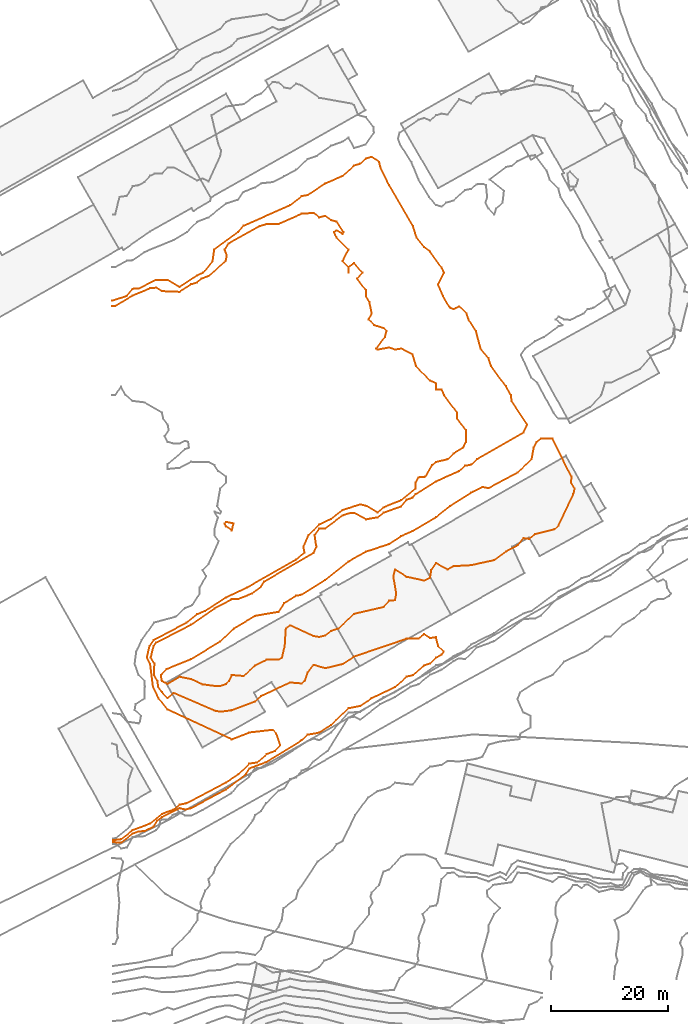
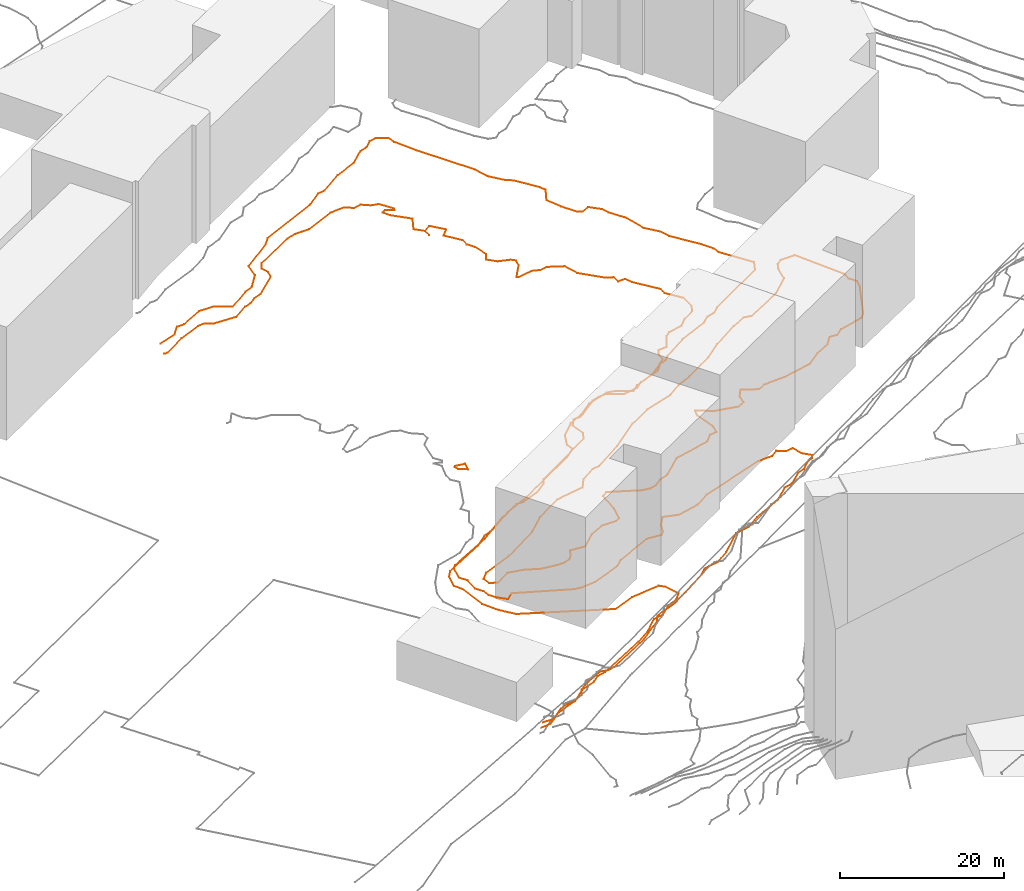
# Not in any storey, part 119 of 419: 4 proxies.
"""IFC2X3 model written with IfcOpenShell, lengths in metres."""

from ifc_helpers import new_model, entity, si_unit, frame, origin_with_axes, place, context, subcontext, project, element, save


model = new_model("IFC2X3")

# Units and contexts
model_context = context("Model", 3, precision=1e-05, world=origin_with_axes())
body_context = subcontext(model_context, "Body", "Model", "MODEL_VIEW")
ifc_project = project(units=[si_unit("AREAUNIT", "SQUARE_METRE"), si_unit("LENGTHUNIT", "METRE")], contexts=[model_context])

# Proxies
proxy_1_placement = place(None, frame((18.8920166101, 439.8976909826, 7.0), z_axis=(0.0, 0.0, 1.0), x_axis=(1.0, 0.0, 0.0)))
element("IfcBuildingElementProxy", 1, at=proxy_1_placement, Name="Contour 7.0 m", ObjectType="NOTDEFINED", context=body_context, shape_type="GeometricCurveSet", body=[
    entity("IfcGeometricCurveSet", [entity("IfcPolyline", [entity("IfcCartesianPoint", [1.2000038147, -1.2000038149, 0.0]), entity("IfcCartesianPoint", [1.4857171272, 0.0, 0.0]), entity("IfcCartesianPoint", [0.2000038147, 0.2500029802, 0.0]), entity("IfcCartesianPoint", [0.0, 0.0, 0.0]), entity("IfcCartesianPoint", [0.2000038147, -0.4999500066, 0.0]), entity("IfcCartesianPoint", [1.2000038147, -1.2000038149, 0.0])])]),
])
proxy_2_placement = place(None, frame((7.9357701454, 413.8976909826, 10.0), z_axis=(0.0, 0.0, 1.0), x_axis=(1.0, 0.0, 0.0)))
element("IfcBuildingElementProxy", 2, at=proxy_2_placement, Name="Contour 10.0 m", ObjectType="NOTDEFINED", context=body_context, shape_type="GeometricCurveSet", body=[
    entity("IfcGeometricCurveSet", [entity("IfcPolyline", [entity("IfcCartesianPoint", [11.6562548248, -1.0, 0.0]), entity("IfcCartesianPoint", [11.1562502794, -1.5499988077, 0.0]), entity("IfcCartesianPoint", [10.1562502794, -1.899998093, 0.0]), entity("IfcCartesianPoint", [9.1562502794, -1.8750009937, 0.0]), entity("IfcCartesianPoint", [7.1562502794, -1.6071437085, 0.0]), entity("IfcCartesianPoint", [5.1562502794, -0.7142857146, 0.0]), entity("IfcCartesianPoint", [3.1562502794, -0.2972964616, 0.0]), entity("IfcCartesianPoint", [1.1562502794, -1.5185189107, 0.0]), entity("IfcCartesianPoint", [0.1562502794, -1.0606072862, 0.0]), entity("IfcCartesianPoint", [0.0, 0.0, 0.0]), entity("IfcCartesianPoint", [0.9340286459, 1.0, 0.0]), entity("IfcCartesianPoint", [5.1562502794, 2.7272711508, 0.0]), entity("IfcCartesianPoint", [10.1562502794, 5.7499988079, 0.0]), entity("IfcCartesianPoint", [12.5408667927, 8.0, 0.0]), entity("IfcCartesianPoint", [16.1562502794, 10.1515157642, 0.0]), entity("IfcCartesianPoint", [20.1562502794, 10.8400001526, 0.0]), entity("IfcCartesianPoint", [21.1562502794, 12.3214294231, 0.0]), entity("IfcCartesianPoint", [23.1562502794, 13.6000006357, 0.0]), entity("IfcCartesianPoint", [24.1562502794, 13.7741941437, 0.0]), entity("IfcCartesianPoint", [28.1562502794, 16.3000003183, 0.0]), entity("IfcCartesianPoint", [32.1562502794, 19.4848481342, 0.0]), entity("IfcCartesianPoint", [35.1562502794, 21.1724144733, 0.0]), entity("IfcCartesianPoint", [39.1562502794, 22.4583323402, 0.0]), entity("IfcCartesianPoint", [41.1562502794, 23.8124990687, 0.0]), entity("IfcCartesianPoint", [43.1562502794, 24.6923082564, 0.0]), entity("IfcCartesianPoint", [47.1562502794, 27.0645175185, 0.0]), entity("IfcCartesianPoint", [49.5773034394, 29.0, 0.0]), entity("IfcCartesianPoint", [53.1562502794, 31.2631588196, 0.0]), entity("IfcCartesianPoint", [55.1562502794, 32.2424240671, 0.0]), entity("IfcCartesianPoint", [56.1562502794, 32.0434791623, 0.0]), entity("IfcCartesianPoint", [61.1562502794, 34.7307696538, 0.0]), entity("IfcCartesianPoint", [63.5636571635, 37.0, 0.0]), entity("IfcCartesianPoint", [63.9289769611, 39.0, 0.0]), entity("IfcCartesianPoint", [64.4289780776, 40.0, 0.0]), entity("IfcCartesianPoint", [65.1562502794, 40.5714279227, 0.0]), entity("IfcCartesianPoint", [67.1562502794, 40.5882344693, 0.0]), entity("IfcCartesianPoint", [70.4062514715, 34.0, 0.0]), entity("IfcCartesianPoint", [70.356254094, 33.0, 0.0]), entity("IfcCartesianPoint", [70.9562464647, 32.0, 0.0]), entity("IfcCartesianPoint", [70.7276807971, 31.0, 0.0]), entity("IfcCartesianPoint", [68.1562502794, 25.666666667, 0.0]), entity("IfcCartesianPoint", [67.4895836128, 25.0, 0.0]), entity("IfcCartesianPoint", [64.1562502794, 24.1666693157, 0.0]), entity("IfcCartesianPoint", [63.1562502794, 23.3636371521, 0.0]), entity("IfcCartesianPoint", [62.1562502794, 23.4545446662, 0.0]), entity("IfcCartesianPoint", [61.1562502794, 22.2500029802, 0.0]), entity("IfcCartesianPoint", [59.1562502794, 21.2000038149, 0.0]), entity("IfcCartesianPoint", [57.1562502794, 19.7000009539, 0.0]), entity("IfcCartesianPoint", [53.1562502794, 18.8333306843, 0.0]), entity("IfcCartesianPoint", [50.1562502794, 18.6666701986, 0.0]), entity("IfcCartesianPoint", [49.1562502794, 18.1250029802, 0.0]), entity("IfcCartesianPoint", [47.1562502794, 19.1666693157, 0.0]), entity("IfcCartesianPoint", [46.356254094, 18.0, 0.0]), entity("IfcCartesianPoint", [46.1562502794, 16.7142818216, 0.0]), entity("IfcCartesianPoint", [45.1562502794, 16.1818213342, 0.0]), entity("IfcCartesianPoint", [42.1562502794, 16.8461504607, 0.0]), entity("IfcCartesianPoint", [40.1562502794, 18.0769247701, 0.0]), entity("IfcCartesianPoint", [39.8562493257, 17.0, 0.0]), entity("IfcCartesianPoint", [40.3562502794, 14.0, 0.0]), entity("IfcCartesianPoint", [40.1562502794, 12.8333342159, 0.0]), entity("IfcCartesianPoint", [39.1562502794, 12.7500019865, 0.0]), entity("IfcCartesianPoint", [38.1562502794, 11.666666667, 0.0]), entity("IfcCartesianPoint", [33.1562502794, 10.4999916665, 0.0]), entity("IfcCartesianPoint", [30.4289759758, 8.0, 0.0]), entity("IfcCartesianPoint", [29.1562502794, 7.5714266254, 0.0]), entity("IfcCartesianPoint", [28.1562502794, 6.7777783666, 0.0]), entity("IfcCartesianPoint", [27.1562502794, 6.5294124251, 0.0]), entity("IfcCartesianPoint", [26.1562502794, 6.6666681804, 0.0]), entity("IfcCartesianPoint", [22.1562502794, 8.5238077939, 0.0]), entity("IfcCartesianPoint", [21.4229173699, 8.0, 0.0]), entity("IfcCartesianPoint", [21.2276803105, 5.0, 0.0]), entity("IfcCartesianPoint", [20.7673616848, 3.0, 0.0]), entity("IfcCartesianPoint", [20.1562502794, 2.6206907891, 0.0]), entity("IfcCartesianPoint", [18.1562502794, 2.6470565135, 0.0]), entity("IfcCartesianPoint", [16.1562502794, 1.6470565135, 0.0]), entity("IfcCartesianPoint", [14.1562502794, -0.1739132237, 0.0]), entity("IfcCartesianPoint", [12.1562502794, -9.0906e-06, 0.0]), entity("IfcCartesianPoint", [11.6562548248, -1.0, 0.0])])]),
])
proxy_3_placement = place(None, frame((-0.4079795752, 385.5622479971, 8.0), z_axis=(0.0, 0.0, 1.0), x_axis=(1.0, 0.0, 0.0)))
element("IfcBuildingElementProxy", 3, at=proxy_3_placement, Name="Contour 8.0 m", ObjectType="NOTDEFINED", context=body_context, shape_type="GeometricCurveSet", body=[
    entity("IfcGeometricCurveSet", [entity("IfcPolyline", [entity("IfcCartesianPoint", [0.0, 0.0, 0.0]), entity("IfcCartesianPoint", [1.5, 0.1620325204, 0.0]), entity("IfcCartesianPoint", [3.5, 1.7379588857, 0.0]), entity("IfcCartesianPoint", [6.5, 2.8634428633, 0.0]), entity("IfcCartesianPoint", [8.5, 4.5238489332, 0.0]), entity("IfcCartesianPoint", [10.5, 5.2379853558, 0.0]), entity("IfcCartesianPoint", [11.5, 6.0912569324, 0.0]), entity("IfcCartesianPoint", [12.7368424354, 6.3354429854, 0.0]), entity("IfcCartesianPoint", [19.5, 9.9187762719, 0.0]), entity("IfcCartesianPoint", [21.6486487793, 11.3354429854, 0.0]), entity("IfcCartesianPoint", [23.5, 13.1453602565, 0.0]), entity("IfcCartesianPoint", [24.8164557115, 13.3354429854, 0.0]), entity("IfcCartesianPoint", [26.5, 14.7585189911, 0.0]), entity("IfcCartesianPoint", [27.8793102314, 15.3354429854, 0.0]), entity("IfcCartesianPoint", [28.8125014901, 16.3354429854, 0.0]), entity("IfcCartesianPoint", [28.0999961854, 18.3354429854, 0.0]), entity("IfcCartesianPoint", [27.5, 18.9354391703, 0.0]), entity("IfcCartesianPoint", [23.5, 18.4783007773, 0.0]), entity("IfcCartesianPoint", [20.5, 17.2899874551, 0.0]), entity("IfcCartesianPoint", [9.5, 22.413874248, 0.0]), entity("IfcCartesianPoint", [7.9705884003, 24.3354429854, 0.0]), entity("IfcCartesianPoint", [6.9741381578, 26.3354429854, 0.0]), entity("IfcCartesianPoint", [6.5, 30.2386696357, 0.0]), entity("IfcCartesianPoint", [5.9249999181, 31.3354429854, 0.0]), entity("IfcCartesianPoint", [6.3876400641, 33.3354429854, 0.0]), entity("IfcCartesianPoint", [7.0980393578, 34.3354429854, 0.0]), entity("IfcCartesianPoint", [12.7564100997, 37.3354429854, 0.0]), entity("IfcCartesianPoint", [14.5, 38.7655501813, 0.0]), entity("IfcCartesianPoint", [15.9528299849, 39.3354429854, 0.0]), entity("IfcCartesianPoint", [19.5, 41.6607445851, 0.0]), entity("IfcCartesianPoint", [23.0833339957, 43.3354429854, 0.0]), entity("IfcCartesianPoint", [31.5, 48.14436014, 0.0]), entity("IfcCartesianPoint", [32.9736840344, 49.3354429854, 0.0]), entity("IfcCartesianPoint", [32.7647062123, 50.3354429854, 0.0]), entity("IfcCartesianPoint", [33.6313132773, 52.3354429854, 0.0]), entity("IfcCartesianPoint", [35.5, 54.149728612, 0.0]), entity("IfcCartesianPoint", [37.5, 55.113220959, 0.0]), entity("IfcCartesianPoint", [39.5, 56.6445339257, 0.0]), entity("IfcCartesianPoint", [42.5, 57.5954432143, 0.0]), entity("IfcCartesianPoint", [43.6176493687, 57.3354429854, 0.0]), entity("IfcCartesianPoint", [45.5, 56.210442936, 0.0]), entity("IfcCartesianPoint", [46.5, 57.0943716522, 0.0]), entity("IfcCartesianPoint", [49.5, 58.3143903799, 0.0]), entity("IfcCartesianPoint", [51.981481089, 60.3354429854, 0.0]), entity("IfcCartesianPoint", [52.023808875, 61.3354429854, 0.0]), entity("IfcCartesianPoint", [52.5, 62.2445323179, 0.0]), entity("IfcCartesianPoint", [53.6666660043, 62.3354429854, 0.0]), entity("IfcCartesianPoint", [54.8333333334, 64.3354429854, 0.0]), entity("IfcCartesianPoint", [55.5, 64.8687754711, 0.0]), entity("IfcCartesianPoint", [57.4999833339, 65.3354429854, 0.0]), entity("IfcCartesianPoint", [58.5, 66.335457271, 0.0]), entity("IfcCartesianPoint", [60.1666613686, 67.3354429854, 0.0]), entity("IfcCartesianPoint", [60.6666693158, 68.3354429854, 0.0]), entity("IfcCartesianPoint", [60.6428590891, 70.3354429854, 0.0]), entity("IfcCartesianPoint", [59.1666613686, 72.3354429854, 0.0]), entity("IfcCartesianPoint", [59.1666613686, 73.3354429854, 0.0]), entity("IfcCartesianPoint", [56.9000019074, 76.3354429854, 0.0]), entity("IfcCartesianPoint", [56.5, 77.3353929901, 0.0]), entity("IfcCartesianPoint", [55.4999750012, 77.3354429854, 0.0]), entity("IfcCartesianPoint", [55.499950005, 78.3354429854, 0.0]), entity("IfcCartesianPoint", [54.5, 78.8354120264, 0.0]), entity("IfcCartesianPoint", [52.0999961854, 81.3354429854, 0.0]), entity("IfcCartesianPoint", [51.5, 83.3354179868, 0.0]), entity("IfcCartesianPoint", [49.5, 84.3353430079, 0.0]), entity("IfcCartesianPoint", [48.5, 84.1354391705, 0.0]), entity("IfcCartesianPoint", [47.5, 84.5172607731, 0.0]), entity("IfcCartesianPoint", [45.5, 84.1536216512, 0.0]), entity("IfcCartesianPoint", [45.2777742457, 84.3354429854, 0.0]), entity("IfcCartesianPoint", [46.7499985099, 86.3354429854, 0.0]), entity("IfcCartesianPoint", [46.9999873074, 87.3354429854, 0.0]), entity("IfcCartesianPoint", [46.5, 87.8354302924, 0.0]), entity("IfcCartesianPoint", [44.9285733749, 88.3354429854, 0.0]), entity("IfcCartesianPoint", [43.9285733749, 89.3354429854, 0.0]), entity("IfcCartesianPoint", [44.4999875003, 90.3354429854, 0.0]), entity("IfcCartesianPoint", [44.0999961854, 92.3354429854, 0.0]), entity("IfcCartesianPoint", [43.4999666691, 93.3354429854, 0.0]), entity("IfcCartesianPoint", [43.4999800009, 94.3354429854, 0.0]), entity("IfcCartesianPoint", [41.9999690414, 96.3354429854, 0.0]), entity("IfcCartesianPoint", [42.9000019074, 97.3354429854, 0.0]), entity("IfcCartesianPoint", [41.5, 99.0021043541, 0.0]), entity("IfcCartesianPoint", [40.500049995, 98.3354429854, 0.0]), entity("IfcCartesianPoint", [40.4999000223, 97.3354429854, 0.0]), entity("IfcCartesianPoint", [40.4999666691, 98.3354429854, 0.0]), entity("IfcCartesianPoint", [39.4999750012, 99.3354429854, 0.0]), entity("IfcCartesianPoint", [40.4999000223, 101.3354429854, 0.0]), entity("IfcCartesianPoint", [38.4999666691, 103.3354429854, 0.0]), entity("IfcCartesianPoint", [37.9999500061, 104.3354429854, 0.0]), entity("IfcCartesianPoint", [38.5, 104.5854459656, 0.0]), entity("IfcCartesianPoint", [39.5, 104.0021096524, 0.0]), entity("IfcCartesianPoint", [39.6428590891, 104.3354429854, 0.0]), entity("IfcCartesianPoint", [38.5, 106.0854400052, 0.0]), entity("IfcCartesianPoint", [37.5, 106.3354229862, 0.0]), entity("IfcCartesianPoint", [36.5, 107.0854400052, 0.0]), entity("IfcCartesianPoint", [35.5, 106.835392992, 0.0]), entity("IfcCartesianPoint", [34.5, 107.5854489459, 0.0]), entity("IfcCartesianPoint", [32.5, 107.4554435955, 0.0]), entity("IfcCartesianPoint", [28.5, 105.7058130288, 0.0]), entity("IfcCartesianPoint", [26.5, 105.6883839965, 0.0]), entity("IfcCartesianPoint", [25.2419352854, 105.3354429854, 0.0]), entity("IfcCartesianPoint", [19.9054050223, 102.3354429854, 0.0]), entity("IfcCartesianPoint", [19.2999995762, 101.3354429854, 0.0]), entity("IfcCartesianPoint", [19.6428561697, 100.3354429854, 0.0]), entity("IfcCartesianPoint", [19.4399996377, 99.3354429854, 0.0]), entity("IfcCartesianPoint", [16.5, 96.7687764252, 0.0]), entity("IfcCartesianPoint", [15.3222223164, 96.3354429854, 0.0]), entity("IfcCartesianPoint", [14.5, 95.662715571, 0.0]), entity("IfcCartesianPoint", [13.5, 95.352392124, 0.0]), entity("IfcCartesianPoint", [11.5, 94.049728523, 0.0]), entity("IfcCartesianPoint", [8.5, 94.1687757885, 0.0]), entity("IfcCartesianPoint", [7.5, 94.7640144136, 0.0]), entity("IfcCartesianPoint", [6.5, 94.6806809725, 0.0]), entity("IfcCartesianPoint", [3.5, 93.4263519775, 0.0]), entity("IfcCartesianPoint", [0.5, 91.6320531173, 0.0]), entity("IfcCartesianPoint", [0.0, 91.6320531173, 0.0])])]),
])
proxy_4_placement = place(None, frame((-0.4079795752, 385.245792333, 9.0), z_axis=(0.0, 0.0, 1.0), x_axis=(1.0, 0.0, 0.0)))
element("IfcBuildingElementProxy", 4, at=proxy_4_placement, Name="Contour 9.0 m", ObjectType="NOTDEFINED", context=body_context, shape_type="GeometricCurveSet", body=[
    entity("IfcGeometricCurveSet", [entity("IfcPolyline", [entity("IfcCartesianPoint", [0.0, 0.0, 0.0]), entity("IfcCartesianPoint", [1.5, -0.0995463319, 0.0]), entity("IfcCartesianPoint", [3.5, 1.4425964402, 0.0]), entity("IfcCartesianPoint", [4.5, 1.839113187, 0.0]), entity("IfcCartesianPoint", [5.5, 1.8580058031, 0.0]), entity("IfcCartesianPoint", [7.0862072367, 2.6518986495, 0.0]), entity("IfcCartesianPoint", [7.7031251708, 3.6518986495, 0.0]), entity("IfcCartesianPoint", [8.5, 4.2893986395, 0.0]), entity("IfcCartesianPoint", [11.5, 5.8263173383, 0.0]), entity("IfcCartesianPoint", [12.5, 5.5832714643, 0.0]), entity("IfcCartesianPoint", [13.5, 5.8066606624, 0.0]), entity("IfcCartesianPoint", [19.5, 9.0374404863, 0.0]), entity("IfcCartesianPoint", [22.9111111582, 11.6518986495, 0.0]), entity("IfcCartesianPoint", [23.5190480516, 12.6518986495, 0.0]), entity("IfcCartesianPoint", [26.5, 13.7618983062, 0.0]), entity("IfcCartesianPoint", [32.5, 17.463219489, 0.0]), entity("IfcCartesianPoint", [33.5, 18.4132622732, 0.0]), entity("IfcCartesianPoint", [35.5, 18.7749755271, 0.0]), entity("IfcCartesianPoint", [37.5, 20.0992671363, 0.0]), entity("IfcCartesianPoint", [40.5, 22.9532686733, 0.0]), entity("IfcCartesianPoint", [42.5, 23.3355718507, 0.0]), entity("IfcCartesianPoint", [44.5, 24.6768991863, 0.0]), entity("IfcCartesianPoint", [48.5, 26.592069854, 0.0]), entity("IfcCartesianPoint", [50.5, 28.3773882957, 0.0]), entity("IfcCartesianPoint", [51.6249995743, 28.6518986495, 0.0]), entity("IfcCartesianPoint", [53.5, 30.2947553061, 0.0]), entity("IfcCartesianPoint", [54.4999800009, 30.6518986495, 0.0]), entity("IfcCartesianPoint", [55.5, 31.6362733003, 0.0]), entity("IfcCartesianPoint", [56.5, 32.1519086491, 0.0]), entity("IfcCartesianPoint", [56.8571433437, 32.6518986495, 0.0]), entity("IfcCartesianPoint", [55.9000076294, 33.6518986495, 0.0]), entity("IfcCartesianPoint", [55.5, 35.1518486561, 0.0]), entity("IfcCartesianPoint", [54.5, 34.9852319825, 0.0]), entity("IfcCartesianPoint", [53.5, 35.6518786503, 0.0]), entity("IfcCartesianPoint", [52.5, 34.9376168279, 0.0]), entity("IfcCartesianPoint", [50.5, 34.882665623, 0.0]), entity("IfcCartesianPoint", [41.5, 31.8283675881, 0.0]), entity("IfcCartesianPoint", [39.5, 30.5268964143, 0.0]), entity("IfcCartesianPoint", [36.5, 29.8185644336, 0.0]), entity("IfcCartesianPoint", [34.5, 30.4018956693, 0.0]), entity("IfcCartesianPoint", [33.5, 29.0804681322, 0.0]), entity("IfcCartesianPoint", [33.0000045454, 27.6518986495, 0.0]), entity("IfcCartesianPoint", [32.5, 27.1935663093, 0.0]), entity("IfcCartesianPoint", [30.5, 27.3661824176, 0.0]), entity("IfcCartesianPoint", [25.5, 25.0636613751, 0.0]), entity("IfcCartesianPoint", [24.5, 24.1224862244, 0.0]), entity("IfcCartesianPoint", [20.5, 22.6018974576, 0.0]), entity("IfcCartesianPoint", [18.5, 22.3577800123, 0.0]), entity("IfcCartesianPoint", [17.5, 22.5447566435, 0.0]), entity("IfcCartesianPoint", [10.5, 25.5804707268, 0.0]), entity("IfcCartesianPoint", [9.5, 24.7107217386, 0.0]), entity("IfcCartesianPoint", [8.5, 25.7318992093, 0.0]), entity("IfcCartesianPoint", [7.8611114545, 26.6518986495, 0.0]), entity("IfcCartesianPoint", [7.7444443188, 27.6518986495, 0.0]), entity("IfcCartesianPoint", [7.174107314, 28.6518986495, 0.0]), entity("IfcCartesianPoint", [7.2185185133, 30.6518986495, 0.0]), entity("IfcCartesianPoint", [6.6012657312, 31.6518986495, 0.0]), entity("IfcCartesianPoint", [7.0769230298, 33.6518986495, 0.0]), entity("IfcCartesianPoint", [7.5, 34.1798985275, 0.0]), entity("IfcCartesianPoint", [13.5, 37.273520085, 0.0]), entity("IfcCartesianPoint", [17.5, 40.0685652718, 0.0]), entity("IfcCartesianPoint", [20.5, 41.6518993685, 0.0]), entity("IfcCartesianPoint", [21.5, 41.6518998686, 0.0]), entity("IfcCartesianPoint", [23.9893614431, 42.6518986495, 0.0]), entity("IfcCartesianPoint", [25.5, 43.7968266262, 0.0]), entity("IfcCartesianPoint", [26.0086208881, 44.6518986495, 0.0]), entity("IfcCartesianPoint", [34.5, 49.5985653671, 0.0]), entity("IfcCartesianPoint", [35.009434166, 50.6518986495, 0.0]), entity("IfcCartesianPoint", [34.7000002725, 52.6518986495, 0.0]), entity("IfcCartesianPoint", [35.5, 53.751898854, 0.0]), entity("IfcCartesianPoint", [36.5, 53.7992673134, 0.0]), entity("IfcCartesianPoint", [39.5, 56.0460592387, 0.0]), entity("IfcCartesianPoint", [40.5, 56.3810650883, 0.0]), entity("IfcCartesianPoint", [41.5, 56.4687999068, 0.0]), entity("IfcCartesianPoint", [43.5, 55.3518994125, 0.0]), entity("IfcCartesianPoint", [45.5, 55.6935654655, 0.0]), entity("IfcCartesianPoint", [46.5, 56.477480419, 0.0]), entity("IfcCartesianPoint", [49.5, 57.5546767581, 0.0]), entity("IfcCartesianPoint", [50.5, 58.7085027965, 0.0]), entity("IfcCartesianPoint", [51.5, 59.0672836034, 0.0]), entity("IfcCartesianPoint", [51.9935063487, 59.6518986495, 0.0]), entity("IfcCartesianPoint", [55.5, 61.8726778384, 0.0]), entity("IfcCartesianPoint", [59.5, 63.6252313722, 0.0]), entity("IfcCartesianPoint", [60.5, 64.5379744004, 0.0]), entity("IfcCartesianPoint", [61.5, 64.7233270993, 0.0]), entity("IfcCartesianPoint", [62.5243908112, 65.6518986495, 0.0]), entity("IfcCartesianPoint", [70.5, 70.2518988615, 0.0]), entity("IfcCartesianPoint", [71.1705883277, 71.6518986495, 0.0]), entity("IfcCartesianPoint", [68.4999982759, 75.6518986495, 0.0]), entity("IfcCartesianPoint", [68.3548384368, 76.6518986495, 0.0]), entity("IfcCartesianPoint", [67.5, 78.1852319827, 0.0]), entity("IfcCartesianPoint", [64.9782607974, 81.6518986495, 0.0]), entity("IfcCartesianPoint", [64.5, 83.0103886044, 0.0]), entity("IfcCartesianPoint", [63.1721312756, 84.6518986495, 0.0]), entity("IfcCartesianPoint", [62.3714283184, 87.6518986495, 0.0]), entity("IfcCartesianPoint", [61.0909090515, 89.6518986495, 0.0]), entity("IfcCartesianPoint", [60.7784813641, 90.6518986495, 0.0]), entity("IfcCartesianPoint", [59.5, 91.8816285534, 0.0]), entity("IfcCartesianPoint", [58.5, 91.3852321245, 0.0]), entity("IfcCartesianPoint", [57.9, 91.6518986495, 0.0]), entity("IfcCartesianPoint", [56.7258058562, 93.6518986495, 0.0]), entity("IfcCartesianPoint", [55.8653841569, 95.6518986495, 0.0]), entity("IfcCartesianPoint", [56.8900003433, 97.6518986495, 0.0]), entity("IfcCartesianPoint", [56.5, 98.4997254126, 0.0]), entity("IfcCartesianPoint", [54.5, 101.2970594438, 0.0]), entity("IfcCartesianPoint", [53.5, 102.0292569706, 0.0]), entity("IfcCartesianPoint", [52.2096768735, 103.6518986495, 0.0]), entity("IfcCartesianPoint", [51.5752685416, 105.6518986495, 0.0]), entity("IfcCartesianPoint", [47.4999979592, 112.6518986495, 0.0]), entity("IfcCartesianPoint", [46.0068494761, 115.6518986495, 0.0]), entity("IfcCartesianPoint", [45.7891563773, 116.6518986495, 0.0]), entity("IfcCartesianPoint", [44.5, 117.5090420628, 0.0]), entity("IfcCartesianPoint", [43.5, 117.265535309, 0.0]), entity("IfcCartesianPoint", [42.5, 116.3407873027, 0.0]), entity("IfcCartesianPoint", [41.5, 116.0477314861, 0.0]), entity("IfcCartesianPoint", [39.5, 114.2518986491, 0.0]), entity("IfcCartesianPoint", [36.5, 112.9549287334, 0.0]), entity("IfcCartesianPoint", [33.5, 110.9726533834, 0.0]), entity("IfcCartesianPoint", [32.5, 110.7947556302, 0.0]), entity("IfcCartesianPoint", [30.5, 109.2325435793, 0.0]), entity("IfcCartesianPoint", [22.5, 105.7002853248, 0.0]), entity("IfcCartesianPoint", [21.5714288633, 104.6518986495, 0.0]), entity("IfcCartesianPoint", [17.4756091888, 101.6518986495, 0.0]), entity("IfcCartesianPoint", [17.2058823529, 99.6518986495, 0.0]), entity("IfcCartesianPoint", [15.6081080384, 97.6518986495, 0.0]), entity("IfcCartesianPoint", [14.5, 97.1997245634, 0.0]), entity("IfcCartesianPoint", [11.5, 95.1861450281, 0.0]), entity("IfcCartesianPoint", [9.5, 96.4105187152, 0.0]), entity("IfcCartesianPoint", [7.5, 96.4354038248, 0.0]), entity("IfcCartesianPoint", [4.5, 94.9302495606, 0.0]), entity("IfcCartesianPoint", [3.5, 94.8928622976, 0.0]), entity("IfcCartesianPoint", [2.4230766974, 93.6518986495, 0.0]), entity("IfcCartesianPoint", [0.0, 92.8518986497, 0.0])])]),
])

save(model, "model.ifc")
